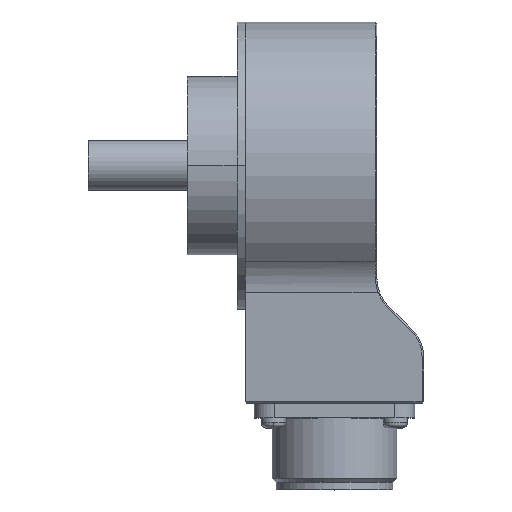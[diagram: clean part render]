
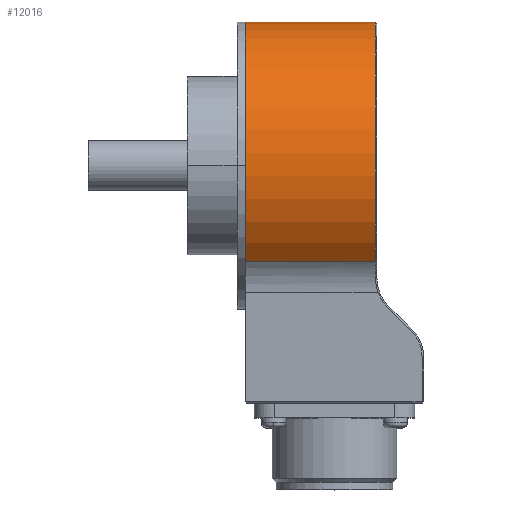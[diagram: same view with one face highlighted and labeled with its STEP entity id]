
A CAD part, top view. The second image highlights one B-rep face of the part: STEP entity #12016.
In plain terms, the highlighted cylindrical face has radius 29 mm (diameter 58 mm), a partial arc.
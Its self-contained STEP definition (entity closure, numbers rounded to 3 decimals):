
#45 = DIRECTION ( 'NONE',  ( 0., 1., 0. ) ) ;
#431 = EDGE_CURVE ( 'NONE', #15187, #4685, #14304, .T. ) ;
#1254 = VECTOR ( 'NONE', #10213, 1000. ) ;
#1373 = CARTESIAN_POINT ( 'NONE',  ( 8.068, 6.004, 21.538 ) ) ;
#1636 = VERTEX_POINT ( 'NONE', #1373 ) ;
#1639 = EDGE_CURVE ( 'NONE', #6135, #1636, #6997, .T. ) ;
#2259 = AXIS2_PLACEMENT_3D ( 'NONE', #7874, #12592, #8501 ) ;
#3115 = ORIENTED_EDGE ( 'NONE', *, *, #10447, .T. ) ;
#3424 = ORIENTED_EDGE ( 'NONE', *, *, #13884, .F. ) ;
#3813 = VECTOR ( 'NONE', #14878, 1000. ) ;
#4374 = ORIENTED_EDGE ( 'NONE', *, *, #431, .T. ) ;
#4470 = DIRECTION ( 'NONE',  ( 0., 1., 0. ) ) ;
#4548 = FACE_OUTER_BOUND ( 'NONE', #8778, .T. ) ;
#4685 = VERTEX_POINT ( 'NONE', #9567 ) ;
#5246 = CARTESIAN_POINT ( 'NONE',  ( 8.068, 54.423, 0. ) ) ;
#5618 = LINE ( 'NONE', #14952, #3813 ) ;
#5787 = AXIS2_PLACEMENT_3D ( 'NONE', #7173, #14246, #45 ) ;
#6135 = VERTEX_POINT ( 'NONE', #5246 ) ;
#6795 = CARTESIAN_POINT ( 'NONE',  ( 34.268, 6.004, 21.538 ) ) ;
#6997 = CIRCLE ( 'NONE', #5787, 29. ) ;
#7016 = CARTESIAN_POINT ( 'NONE',  ( 8.068, 25.423, 0. ) ) ;
#7093 = CYLINDRICAL_SURFACE ( 'NONE', #9015, 29. ) ;
#7173 = CARTESIAN_POINT ( 'NONE',  ( 8.068, 25.423, 0. ) ) ;
#7874 = CARTESIAN_POINT ( 'NONE',  ( 34.268, 25.423, 0. ) ) ;
#8501 = DIRECTION ( 'NONE',  ( 0., 1., 0. ) ) ;
#8778 = EDGE_LOOP ( 'NONE', ( #3424, #10341, #3115, #4374 ) ) ;
#8969 = LINE ( 'NONE', #14650, #1254 ) ;
#9015 = AXIS2_PLACEMENT_3D ( 'NONE', #7016, #11499, #4470 ) ;
#9567 = CARTESIAN_POINT ( 'NONE',  ( 34.268, 54.423, 0. ) ) ;
#10213 = DIRECTION ( 'NONE',  ( 1., 0., 0. ) ) ;
#10341 = ORIENTED_EDGE ( 'NONE', *, *, #1639, .T. ) ;
#10447 = EDGE_CURVE ( 'NONE', #1636, #15187, #5618, .T. ) ;
#11499 = DIRECTION ( 'NONE',  ( 1., 0., 0. ) ) ;
#12016 = ADVANCED_FACE ( 'NONE', ( #4548 ), #7093, .T. ) ;
#12592 = DIRECTION ( 'NONE',  ( -1., 0., 0. ) ) ;
#13884 = EDGE_CURVE ( 'NONE', #6135, #4685, #8969, .T. ) ;
#14246 = DIRECTION ( 'NONE',  ( 1., 0., 0. ) ) ;
#14304 = CIRCLE ( 'NONE', #2259, 29. ) ;
#14650 = CARTESIAN_POINT ( 'NONE',  ( 8.068, 54.423, 0. ) ) ;
#14878 = DIRECTION ( 'NONE',  ( 1., 0., 0. ) ) ;
#14952 = CARTESIAN_POINT ( 'NONE',  ( 8.068, 6.004, 21.538 ) ) ;
#15187 = VERTEX_POINT ( 'NONE', #6795 ) ;
